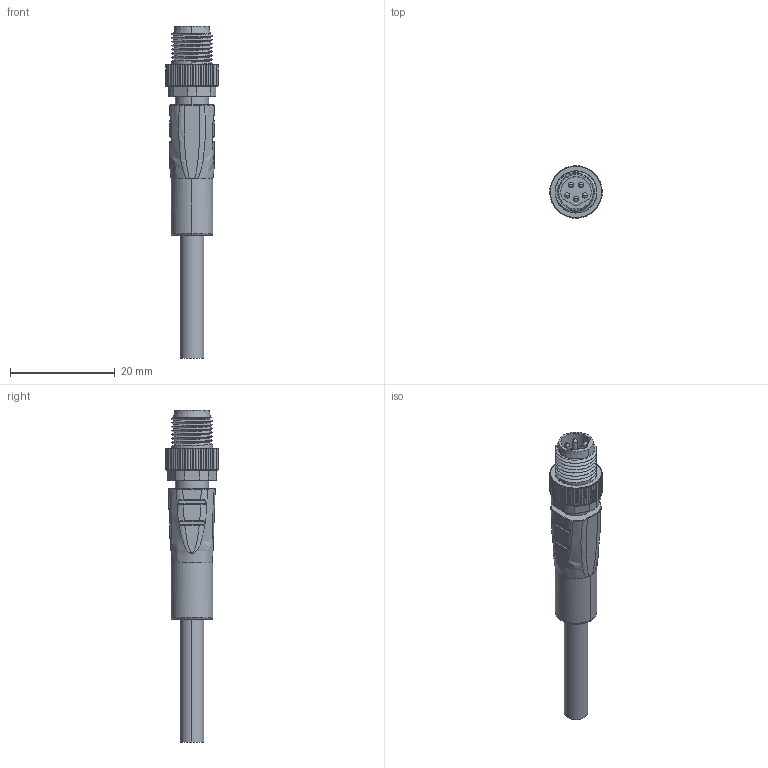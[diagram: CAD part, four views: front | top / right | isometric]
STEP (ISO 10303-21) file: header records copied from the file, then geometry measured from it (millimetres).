
FILE_DESCRIPTION((''),'2;1');
FILE_NAME('M8-4MS-L','2025-05-20T',('lyj'),(''),'PRO/ENGINEER BY PARAMETRIC TECHNOLOGY CORPORATION, 2009360','PRO/ENGINEER BY PARAMETRIC TECHNOLOGY CORPORATION, 2009360','');
FILE_SCHEMA(('CONFIG_CONTROL_DESIGN'));
Length unit declared in the file: millimetre
Products named in the file (1): M8-4MS-L
Bounding box: 10 x 10 x 63.3 mm (x, y, z)
Volume: 2430 mm3; surface area: 2401 mm2
Topology: 1 solids, 1 shells, 501 faces, 1243 edges, 756 vertices
Faces by surface type: cylinder 191, cone 130, plane 107, extrusion 31, bspline 24, sphere 10, torus 8
Entity records: 18892 total; most frequent: CARTESIAN_POINT 7694, ORIENTED_EDGE 2466, DIRECTION 2103, EDGE_CURVE 1233, AXIS2_PLACEMENT_3D 817, VERTEX_POINT 756, EDGE_LOOP 523, FACE_OUTER_BOUND 501
